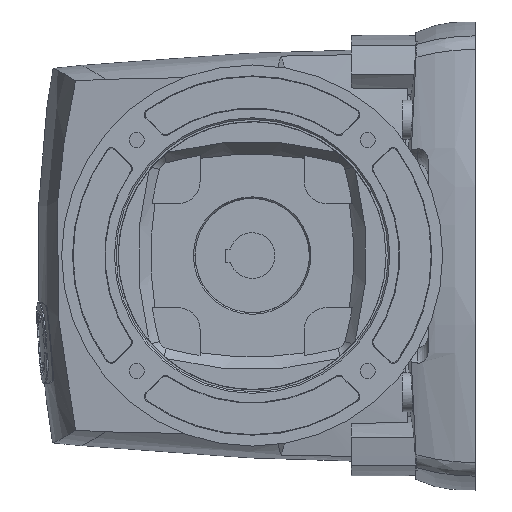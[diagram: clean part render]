
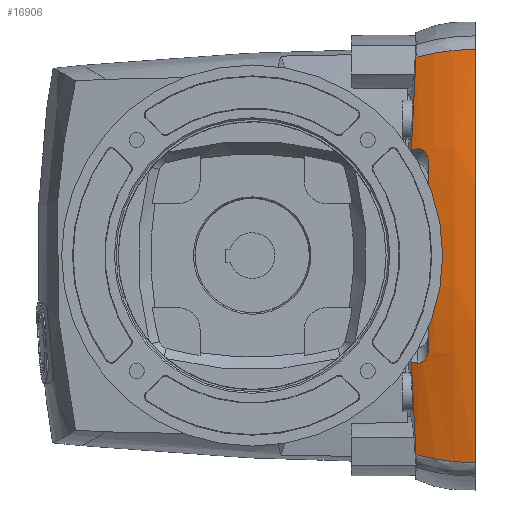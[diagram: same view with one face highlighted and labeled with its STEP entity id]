
A CAD part, left-side view. The second image highlights one B-rep face of the part: STEP entity #16906.
In plain terms, the highlighted toroidal (fillet/blend) face has major radius 840.362 mm and minor radius 159.642 mm.
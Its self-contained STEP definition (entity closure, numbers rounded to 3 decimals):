
#2440=CARTESIAN_POINT('',(-363.489,-74.28,
283.495));
#2441=CARTESIAN_POINT('',(-362.678,-74.607,
292.984));
#2442=CARTESIAN_POINT('',(-360.823,-75.356,
311.934));
#2443=CARTESIAN_POINT('',(-357.305,-76.767,
340.279));
#2444=CARTESIAN_POINT('',(-354.483,-77.898,
359.099));
#2445=CARTESIAN_POINT('',(-352.949,-78.511,
368.49));
#4405=CARTESIAN_POINT('',(620.504,-132.997,185.964));
#4406=DIRECTION('',(0.,-1.,0.));
#4407=DIRECTION('',(-0.982,0.,0.19));
#4408=AXIS2_PLACEMENT_3D('',#4405,#4406,#4407);
#4506=CARTESIAN_POINT('',(-352.949,-78.511,
3.438));
#4507=CARTESIAN_POINT('',(-355.679,-87.111,
1.076));
#4508=CARTESIAN_POINT('',(-359.891,-105.049,
-2.555));
#4509=CARTESIAN_POINT('',(-361.332,-123.705,
-3.79));
#4510=CARTESIAN_POINT('',(-361.332,-133.043,
-3.79));
#4512=CARTESIAN_POINT('',(-363.488,-74.279,
88.433));
#4513=CARTESIAN_POINT('',(-362.672,-74.609,
78.876));
#4514=CARTESIAN_POINT('',(-360.801,-75.364,
59.833));
#4515=CARTESIAN_POINT('',(-357.286,-76.775,
31.491));
#4516=CARTESIAN_POINT('',(-354.472,-77.903,
12.76));
#4517=CARTESIAN_POINT('',(-352.949,-78.511,
3.438));
#4519=CARTESIAN_POINT('',(-365.611,-80.147,
87.676));
#4520=CARTESIAN_POINT('',(-365.388,-79.491,
87.754));
#4521=CARTESIAN_POINT('',(-364.932,-78.181,
87.913));
#4522=CARTESIAN_POINT('',(-364.226,-76.224,
88.167));
#4523=CARTESIAN_POINT('',(-363.736,-74.927,
88.343));
#4524=CARTESIAN_POINT('',(-363.488,-74.279,
88.433));
#4526=CARTESIAN_POINT('',(-369.9,-90.065,
100.057));
#4527=CARTESIAN_POINT('',(-369.78,-90.065,
98.671));
#4528=CARTESIAN_POINT('',(-369.469,-89.761,
96.121));
#4529=CARTESIAN_POINT('',(-368.858,-88.655,
92.94));
#4530=CARTESIAN_POINT('',(-368.153,-87.072,
90.448));
#4531=CARTESIAN_POINT('',(-367.358,-85.065,
88.636));
#4532=CARTESIAN_POINT('',(-366.487,-82.684,
87.64));
#4533=CARTESIAN_POINT('',(-365.907,-81.016,
87.573));
#4534=CARTESIAN_POINT('',(-365.611,-80.147,
87.676));
#4536=CARTESIAN_POINT('',(-361.332,-133.043,
375.718));
#4537=CARTESIAN_POINT('',(-361.332,-123.705,
375.718));
#4538=CARTESIAN_POINT('',(-359.891,-105.049,
374.482));
#4539=CARTESIAN_POINT('',(-355.679,-87.111,
370.853));
#4540=CARTESIAN_POINT('',(-352.949,-78.511,
368.49));
#4586=CARTESIAN_POINT('',(620.504,-90.064,185.964));
#4587=DIRECTION('',(0.,1.,0.));
#4588=DIRECTION('',(-0.996,0.,-0.086));
#4589=AXIS2_PLACEMENT_3D('',#4586,#4587,#4588);
#4658=CARTESIAN_POINT('',(-365.611,-80.147,
284.252));
#4659=CARTESIAN_POINT('',(-365.385,-79.484,
284.174));
#4660=CARTESIAN_POINT('',(-364.926,-78.164,
284.013));
#4661=CARTESIAN_POINT('',(-364.219,-76.207,
283.76));
#4662=CARTESIAN_POINT('',(-363.734,-74.92,
283.584));
#4663=CARTESIAN_POINT('',(-363.489,-74.28,
283.495));
#4674=CARTESIAN_POINT('',(-369.9,-90.066,
271.871));
#4675=CARTESIAN_POINT('',(-369.781,-90.066,
273.243));
#4676=CARTESIAN_POINT('',(-369.469,-89.762,
275.806));
#4677=CARTESIAN_POINT('',(-368.861,-88.66,
278.975));
#4678=CARTESIAN_POINT('',(-368.158,-87.084,
281.467));
#4679=CARTESIAN_POINT('',(-367.363,-85.079,
283.282));
#4680=CARTESIAN_POINT('',(-366.494,-82.705,
284.287));
#4681=CARTESIAN_POINT('',(-365.904,-81.008,
284.354));
#4682=CARTESIAN_POINT('',(-365.611,-80.147,
284.252));
#11076=VERTEX_POINT('',#4512);
#11077=VERTEX_POINT('',#4517);
#11078=VERTEX_POINT('',#4519);
#11079=VERTEX_POINT('',#2440);
#11080=VERTEX_POINT('',#2445);
#11081=VERTEX_POINT('',#4526);
#11082=VERTEX_POINT('',#4536);
#11083=CARTESIAN_POINT('',(-369.9,-90.065,
271.871));
#11084=VERTEX_POINT('',#11083);
#11085=VERTEX_POINT('',#4658);
#11086=VERTEX_POINT('',#4510);
#16883=CARTESIAN_POINT('',(620.504,-132.997,
185.964));
#16884=DIRECTION('',(0.,-1.,0.));
#16885=DIRECTION('',(-0.981,0.,-0.192));
#16886=AXIS2_PLACEMENT_3D('',#16883,#16884,#16885);
#16887=TOROIDAL_SURFACE('',#16886,840.363,159.642);
#16888=ORIENTED_EDGE('',*,*,#16878,.F.);
#16889=ORIENTED_EDGE('',*,*,#14677,.F.);
#16891=ORIENTED_EDGE('',*,*,#16890,.F.);
#16893=ORIENTED_EDGE('',*,*,#16892,.F.);
#16895=ORIENTED_EDGE('',*,*,#16894,.T.);
#16897=ORIENTED_EDGE('',*,*,#16896,.T.);
#16899=ORIENTED_EDGE('',*,*,#16898,.T.);
#16900=ORIENTED_EDGE('',*,*,#14709,.T.);
#16902=ORIENTED_EDGE('',*,*,#16901,.F.);
#16903=ORIENTED_EDGE('',*,*,#16782,.T.);
#16904=EDGE_LOOP('',(#16888,#16889,#16891,#16893,#16895,#16897,#16899,#16900,
#16902,#16903));
#16905=FACE_OUTER_BOUND('',#16904,.F.);
#16906=ADVANCED_FACE('',(#16905),#16887,.T.);
#2446=B_SPLINE_CURVE_WITH_KNOTS('',3,(#2440,#2441,#2442,#2443,#2444,#2445),
.UNSPECIFIED.,.F.,.F.,(4,1,1,4),(0.,0.333,0.667,1.),
.UNSPECIFIED.);
#4409=CIRCLE('',#4408,1000.005);
#4511=B_SPLINE_CURVE_WITH_KNOTS('',3,(#4506,#4507,#4508,#4509,#4510),
.UNSPECIFIED.,.F.,.F.,(4,1,4),(0.,0.5,1.),.UNSPECIFIED.);
#4518=B_SPLINE_CURVE_WITH_KNOTS('',3,(#4512,#4513,#4514,#4515,#4516,#4517),
.UNSPECIFIED.,.F.,.F.,(4,1,1,4),(0.,0.333,0.667,1.),
.UNSPECIFIED.);
#4525=B_SPLINE_CURVE_WITH_KNOTS('',3,(#4519,#4520,#4521,#4522,#4523,#4524),
.UNSPECIFIED.,.F.,.F.,(4,1,1,4),(0.,0.333,0.667,1.),
.UNSPECIFIED.);
#4535=B_SPLINE_CURVE_WITH_KNOTS('',3,(#4526,#4527,#4528,#4529,#4530,#4531,#4532,
#4533,#4534),.UNSPECIFIED.,.F.,.F.,(4,1,1,1,1,1,4),(0.,0.167,
0.333,0.5,0.667,0.833,1.),
.UNSPECIFIED.);
#4541=B_SPLINE_CURVE_WITH_KNOTS('',3,(#4536,#4537,#4538,#4539,#4540),
.UNSPECIFIED.,.F.,.F.,(4,1,4),(0.,0.5,1.),.UNSPECIFIED.);
#4590=CIRCLE('',#4589,994.123);
#4664=B_SPLINE_CURVE_WITH_KNOTS('',3,(#4658,#4659,#4660,#4661,#4662,#4663),
.UNSPECIFIED.,.F.,.F.,(4,1,1,4),(0.,0.333,0.667,1.),
.UNSPECIFIED.);
#4683=B_SPLINE_CURVE_WITH_KNOTS('',3,(#4674,#4675,#4676,#4677,#4678,#4679,#4680,
#4681,#4682),.UNSPECIFIED.,.F.,.F.,(4,1,1,1,1,1,4),(0.,0.167,
0.333,0.5,0.667,0.833,1.),
.UNSPECIFIED.);
#14677=EDGE_CURVE('',#11076,#11077,#4518,.T.);
#14709=EDGE_CURVE('',#11079,#11080,#2446,.T.);
#16782=EDGE_CURVE('',#11082,#11086,#4409,.T.);
#16878=EDGE_CURVE('',#11077,#11086,#4511,.T.);
#16890=EDGE_CURVE('',#11078,#11076,#4525,.T.);
#16892=EDGE_CURVE('',#11081,#11078,#4535,.T.);
#16894=EDGE_CURVE('',#11081,#11084,#4590,.T.);
#16896=EDGE_CURVE('',#11084,#11085,#4683,.T.);
#16898=EDGE_CURVE('',#11085,#11079,#4664,.T.);
#16901=EDGE_CURVE('',#11082,#11080,#4541,.T.);
